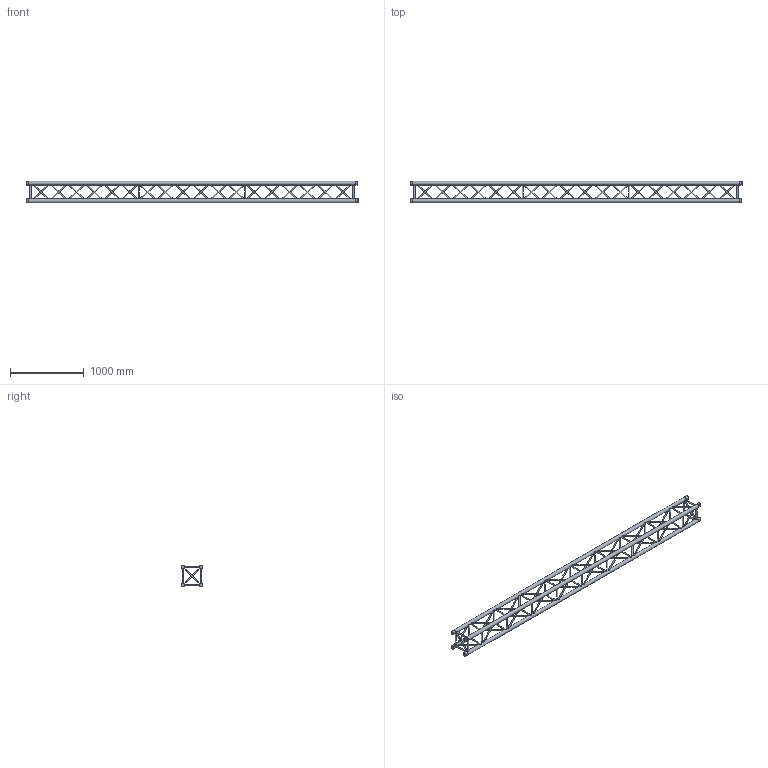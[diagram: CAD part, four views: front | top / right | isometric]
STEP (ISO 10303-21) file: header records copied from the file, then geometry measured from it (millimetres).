
FILE_DESCRIPTION(/* description */ (''),/* implementation_level */ '2;1');
FILE_NAME(/* name */ 'M:\Symbolen\STP\30-er truss\111080156.stp',/* time_stamp */ '2015-01-30T11:44:53+01:00',/* author */ ('Stephan'),/* organization */ (''),/* preprocessor_version */ 'ST-DEVELOPER v15.6',/* originating_system */ 'Autodesk Inventor 2015',/* authorisation */ '');
FILE_SCHEMA (('AUTOMOTIVE_DESIGN { 1 0 10303 214 3 1 1 }'));
Length unit declared in the file: millimetre
Products named in the file (1): 160023749
Bounding box: 4500 x 289.98 x 289.98 mm (x, y, z)
Volume: 32651478.1 mm3; surface area: 4096318.5 mm2
Topology: 8 solids, 88 shells, 484 faces, 772 edges, 456 vertices
Faces by surface type: plane 352, cylinder 124, cone 8
Full cylindrical faces by diameter (mm): 10 x8, 12 x4, 16 x84, 49.5 x8, 51 x4
Entity records: 12199 total; most frequent: CARTESIAN_POINT 2277, DIRECTION 1898, ORIENTED_EDGE 1600, AXIS2_PLACEMENT_3D 853, EDGE_LOOP 784, EDGE_CURVE 640, STYLED_ITEM 469, FACE_OUTER_BOUND 468
